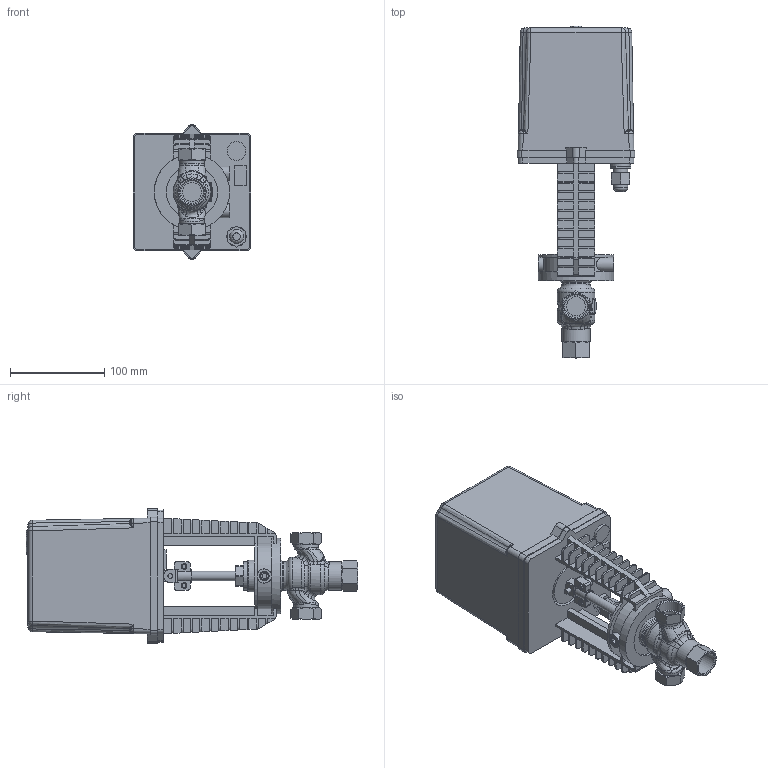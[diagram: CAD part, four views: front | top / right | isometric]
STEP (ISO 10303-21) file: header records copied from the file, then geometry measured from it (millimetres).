
FILE_DESCRIPTION(/* description */ ('D230-11264','CAx-IF Rec.Pracs.---Representation and Presentation of Product Manufacturing Information (PMI)---4.0---2014-10-13'),/* implementation_level */ '2;1');
FILE_NAME(/* name */ '',/* time_stamp */ '2026-04-07T13:04:43+03:00',/* author */ ('DN.RU'),/* organization */ ('DN.RU'),/* preprocessor_version */ 'ST-DEVELOPER v20',/* originating_system */ 'Autodesk Inventor 2025',/* authorisation */ '');
FILE_SCHEMA (('AP242_MANAGED_MODEL_BASED_3D_ENGINEERING_MIM_LF { 1 0 10303 442 1 1 4 }'));
Length unit declared in the file: millimetre
Products named in the file (1): VRg3M/S-31M-PED-T
Bounding box: 125 x 353 x 142.97 mm (x, y, z)
Volume: 2399125 mm3; surface area: 206172.1 mm2
Topology: 1 solids, 1 shells, 1086 faces, 2923 edges, 1874 vertices
Faces by surface type: plane 564, bspline 222, cylinder 176, cone 68, torus 42, sphere 14
Full cylindrical faces by diameter (mm): 5 x4, 6 x2, 8 x3, 8.5 x2, 10 x4, 13 x1, 15 x4, 18 x1, 20 x4, 24.12 x3, 26.12 x2, 30 x3, 34 x2, 45 x1, 50 x1, 55 x2, 80 x1
Entity records: 39781 total; most frequent: CARTESIAN_POINT 12768, ORIENTED_EDGE 5812, DIRECTION 4732, EDGE_CURVE 2906, VERTEX_POINT 1874, LINE 1660, VECTOR 1660, AXIS2_PLACEMENT_3D 1536
